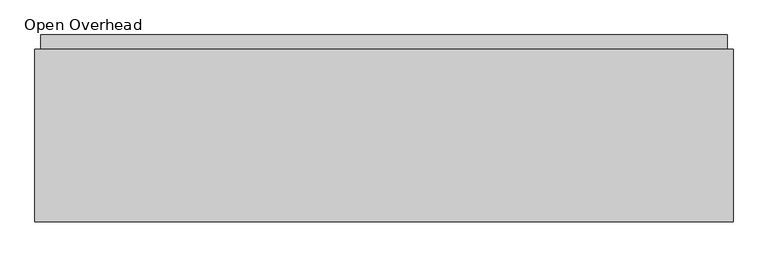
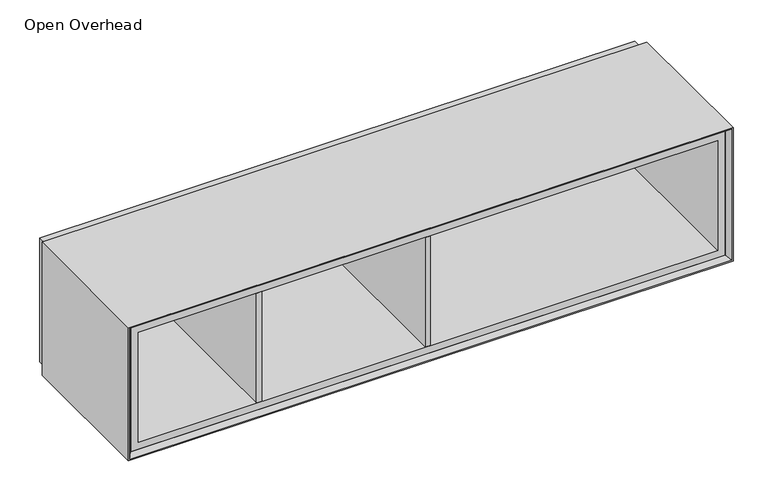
"""IFC4 building model written with IfcOpenShell, lengths in millimetres: furniture geometry."""

from ifc_helpers import new_model, si_unit, frame, origin, place, context, project, spatial, polyline, outline, extrude, faceted_brep, source, transform, mapped, element, save


def open_overhead_0c16e00b(model_context):
    return source(origin(), model_context, "Body", "SolidModel", [
        extrude(outline(polyline([(768.35, 376.2375), (768.35, 12.7), (755.65, 12.7), (755.65, 376.2375), (768.35, 376.2375)])), frame((0.0, 0.0, 1555.75), z_axis=(0.0, 0.0, 1.0), x_axis=(1.0, 0.0, 0.0)), (0.0, 0.0, 1.0), 292.1),
        extrude(outline(polyline([(342.9, 376.2375), (342.9, 12.7), (330.2, 12.7), (330.2, 376.2375), (342.9, 376.2375)])), frame((0.0, 0.0, 1555.75), z_axis=(0.0, 0.0, 1.0), x_axis=(1.0, 0.0, 0.0)), (0.0, 0.0, 1.0), 292.1),
        extrude(outline(polyline([(1511.3, 376.2375), (12.7, 376.2375), (12.7, 407.9875), (1511.3, 407.9875), (1511.3, 376.2375)])), frame((0.0, 0.0, 1536.7), z_axis=(0.0, 0.0, 1.0), x_axis=(1.0, 0.0, 0.0)), (0.0, 0.0, 1.0), 330.2),
        extrude(outline(polyline([(1866.9, 1511.3), (1866.9, 12.7), (1536.7, 12.7), (1536.7, 1511.3), (1866.9, 1511.3)]), holes=[polyline([(1847.85, 31.75), (1847.85, 1492.25), (1555.75, 1492.25), (1555.75, 31.75), (1847.85, 31.75)])]), frame((0.0, 12.7, 0.0), z_axis=(0.0, 1.0, 0.0), x_axis=(0.0, 0.0, 1.0)), (0.0, 0.0, 1.0), 363.5375),
        faceted_brep([(1511.3, 12.7, 1866.9), (1511.3, 376.2375, 1866.9), (1511.3, 376.2375, 1536.7), (1511.3, 12.7, 1536.7), (1520.825, 0.0, 1876.425), (1520.825, 0.0, 1527.175), (1524.0, 376.2375, 1879.6), (1524.0, 0.0, 1879.6), (1524.0, 0.0, 1524.0), (1524.0, 376.2375, 1524.0), (12.7, 376.2375, 1536.7), (12.7, 12.7, 1536.7), (3.175, 0.0, 1527.175), (0.0, 0.0, 1524.0), (0.0, 376.2375, 1524.0), (12.7, 376.2375, 1866.9), (12.7, 12.7, 1866.9), (3.175, 0.0, 1876.425), (0.0, 0.0, 1879.6), (0.0, 376.2375, 1879.6)], [[[0, 1, 2, 3]], [[4, 0, 3, 5]], [[6, 7, 8, 9]], [[3, 2, 10, 11]], [[5, 3, 11, 12]], [[9, 8, 13, 14]], [[11, 10, 15, 16]], [[12, 11, 16, 17]], [[14, 13, 18, 19]], [[9, 14, 19, 6], [1, 15, 10, 2]], [[16, 15, 1, 0]], [[17, 16, 0, 4]], [[7, 18, 13, 8], [5, 12, 17, 4]], [[19, 18, 7, 6]]]),
    ])


if __name__ == "__main__":
    model = new_model("IFC4")
    model_context = context("Model", 3, world=origin())
    ifc_project = project(units=[si_unit("LENGTHUNIT", "METRE", prefix="MILLI")], contexts=[model_context])
    site = spatial("IfcSite", under=ifc_project)
    building = spatial("IfcBuilding", under=site)
    placement = place(None, origin())
    open_overhead_shape = open_overhead_0c16e00b(model_context)
    element("IfcFurniture", 1, ObjectType="Open Overhead : 1 1/4\" Backpanel - 60\" W", at=placement, inside=building, context=model_context, shape_type="MappedRepresentation", body=[
        mapped(open_overhead_shape, transform((0.0, 0.0, 0.0), x_axis=(1.0, 0.0, 0.0), y_axis=(0.0, 1.0, 0.0), z_axis=(0.0, 0.0, 1.0))),
    ])
    save(model, "model.ifc")
